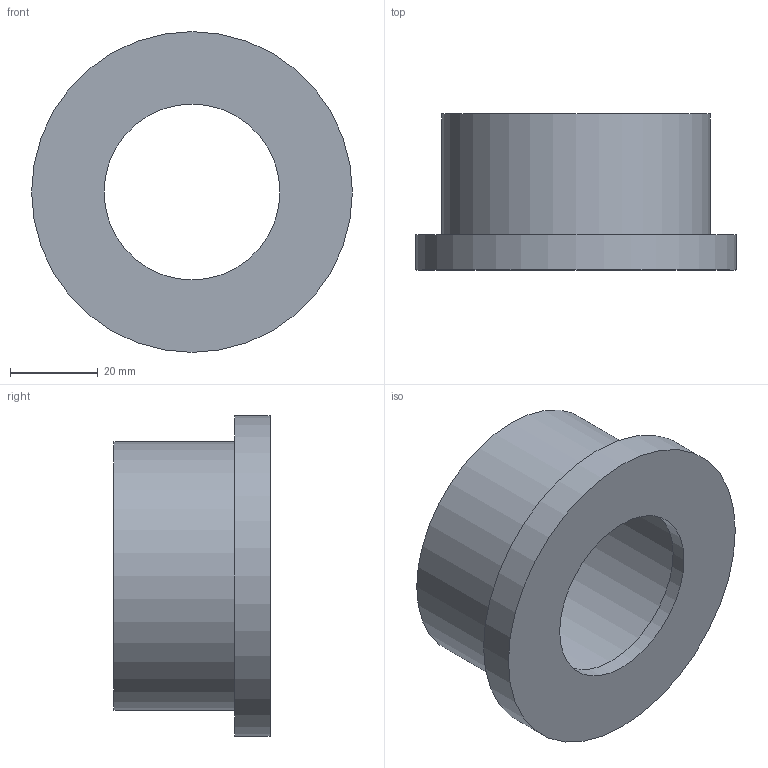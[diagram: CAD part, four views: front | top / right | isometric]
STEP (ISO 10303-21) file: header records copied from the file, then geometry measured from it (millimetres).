
FILE_DESCRIPTION(/* description */ ('PVC collare rigato incollaggio metrico'),/* implementation_level */ '2;1');
FILE_NAME(/* name */ 'C:\Users\POLYPIPE\Desktop\DATASET INVENTOR\LIBRERIA EFFAST\RACCORDI 3DxWEB\RDR\3D_RDRQRD\3D_RDRQRD0500.stp',/* time_stamp */ '2018-01-19T15:26:40+01:00',/* author */ ('POLYPIPE'),/* organization */ ('Polypipe Italia s.r.l.'),/* preprocessor_version */ 'ST-DEVELOPER v16.1',/* originating_system */ 'Autodesk Inventor 2016',/* authorisation */ '');
FILE_SCHEMA (('CONFIG_CONTROL_DESIGN'));
Length unit declared in the file: millimetre
Products named in the file (1): 3D_RDRQRD
Bounding box: 73 x 35.5 x 73 mm (x, y, z)
Volume: 46620.8 mm3; surface area: 18428.6 mm2
Topology: 1 solids, 1 shells, 8 faces, 12 edges, 8 vertices
Faces by surface type: plane 4, cylinder 4
Full cylindrical faces by diameter (mm): 40 x1, 50 x1, 61 x1, 73 x1
Entity records: 192 total; most frequent: DIRECTION 34, CARTESIAN_POINT 25, AXIS2_PLACEMENT_3D 17, EDGE_LOOP 16, ORIENTED_EDGE 16, FACE_BOUND 8, FACE_OUTER_BOUND 8, CIRCLE 8
